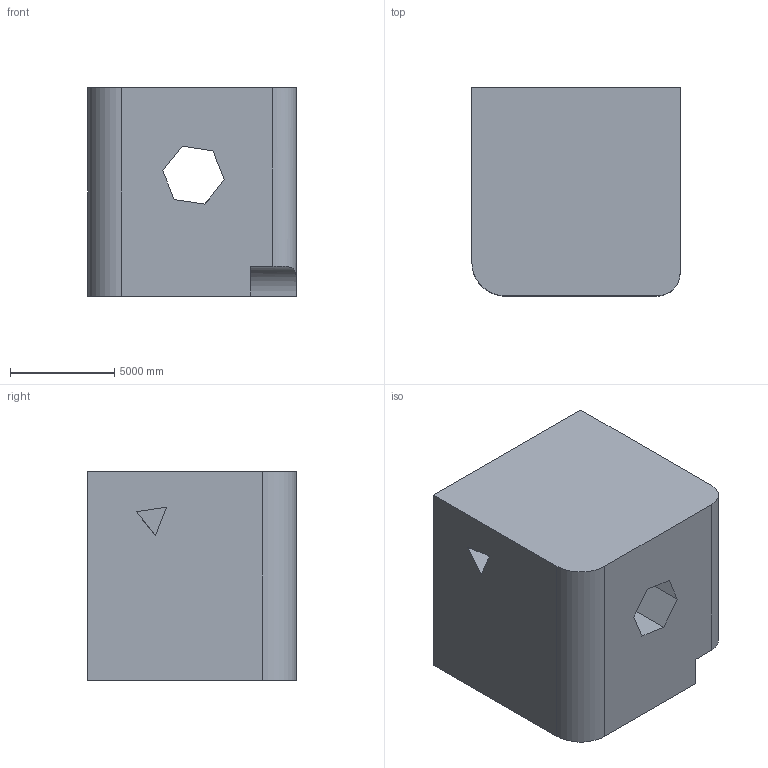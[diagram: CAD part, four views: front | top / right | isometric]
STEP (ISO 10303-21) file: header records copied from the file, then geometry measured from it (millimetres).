
FILE_DESCRIPTION (( 'STEP AP203' ), '1' );
FILE_NAME ('1527.STEP', '2022-08-18T15:04:10', ( 'user' ), ( '' ), 'SwSTEP 2.0', 'SolidWorks 2021', '' );
FILE_SCHEMA (( 'CONFIG_CONTROL_DESIGN' ));
Length unit declared in the file: centimetre
Products named in the file (1): 1527
Bounding box: 10000 x 10000 x 10000 mm (x, y, z)
Volume: 918737643936.3 mm3; surface area: 711241475.1 mm2
Topology: 1 solids, 1 shells, 25 faces, 72 edges, 48 vertices
Faces by surface type: plane 22, cylinder 3
Entity records: 974 total; most frequent: CARTESIAN_POINT 226, ORIENTED_EDGE 144, DIRECTION 128, EDGE_CURVE 72, LINE 66, VECTOR 66, VERTEX_POINT 48, AXIS2_PLACEMENT_3D 31
